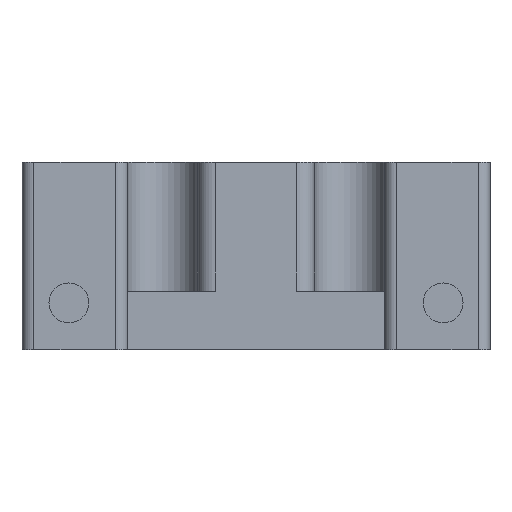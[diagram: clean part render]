
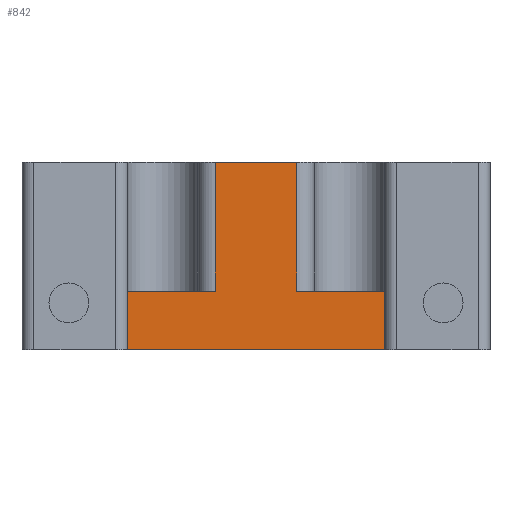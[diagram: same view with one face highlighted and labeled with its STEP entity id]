
A CAD part, front view. The second image highlights one B-rep face of the part: STEP entity #842.
In plain terms, the highlighted planar face has unit normal (0, -1, 0).
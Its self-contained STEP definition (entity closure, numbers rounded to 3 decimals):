
#32 = PLANE('',#33);
#33 = AXIS2_PLACEMENT_3D('',#34,#35,#36);
#34 = CARTESIAN_POINT('',(30.,-12.5,8.));
#35 = DIRECTION('',(0.,0.,1.));
#36 = DIRECTION('',(1.,0.,0.));
#57 = VERTEX_POINT('',#58);
#58 = CARTESIAN_POINT('',(13.5,-9.5,8.));
#77 = CYLINDRICAL_SURFACE('',#78,1.5);
#78 = AXIS2_PLACEMENT_3D('',#79,#80,#81);
#79 = CARTESIAN_POINT('',(13.5,-8.,8.));
#80 = DIRECTION('',(-0.,-0.,-1.));
#81 = DIRECTION('',(1.,0.,0.));
#89 = EDGE_CURVE('',#90,#57,#92,.T.);
#90 = VERTEX_POINT('',#91);
#91 = CARTESIAN_POINT('',(6.5,-9.5,8.));
#92 = SURFACE_CURVE('',#93,(#97,#104),.PCURVE_S1.);
#93 = LINE('',#94,#95);
#94 = CARTESIAN_POINT('',(5.,-9.5,8.));
#95 = VECTOR('',#96,1.);
#96 = DIRECTION('',(1.,0.,0.));
#97 = PCURVE('',#32,#98);
#98 = DEFINITIONAL_REPRESENTATION('',(#99),#103);
#99 = LINE('',#100,#101);
#100 = CARTESIAN_POINT('',(-25.,3.));
#101 = VECTOR('',#102,1.);
#102 = DIRECTION('',(1.,-0.));
#103 = ( GEOMETRIC_REPRESENTATION_CONTEXT(2) 
PARAMETRIC_REPRESENTATION_CONTEXT() REPRESENTATION_CONTEXT('2D SPACE',''
  ) );
#104 = PCURVE('',#105,#110);
#105 = PLANE('',#106);
#106 = AXIS2_PLACEMENT_3D('',#107,#108,#109);
#107 = CARTESIAN_POINT('',(21.,-9.5,8.));
#108 = DIRECTION('',(-0.,-1.,-0.));
#109 = DIRECTION('',(1.,0.,0.));
#110 = DEFINITIONAL_REPRESENTATION('',(#111),#115);
#111 = LINE('',#112,#113);
#112 = CARTESIAN_POINT('',(-16.,0.));
#113 = VECTOR('',#114,1.);
#114 = DIRECTION('',(1.,-0.));
#115 = ( GEOMETRIC_REPRESENTATION_CONTEXT(2) 
PARAMETRIC_REPRESENTATION_CONTEXT() REPRESENTATION_CONTEXT('2D SPACE',''
  ) );
#138 = CYLINDRICAL_SURFACE('',#139,1.5);
#139 = AXIS2_PLACEMENT_3D('',#140,#141,#142);
#140 = CARTESIAN_POINT('',(6.5,-8.,8.));
#141 = DIRECTION('',(0.,0.,-1.));
#142 = DIRECTION('',(0.,-1.,0.));
#223 = PLANE('',#224);
#224 = AXIS2_PLACEMENT_3D('',#225,#226,#227);
#225 = CARTESIAN_POINT('',(-1.,-12.5,8.));
#226 = DIRECTION('',(1.,0.,0.));
#227 = DIRECTION('',(-0.,1.,0.));
#515 = PLANE('',#516);
#516 = AXIS2_PLACEMENT_3D('',#517,#518,#519);
#517 = CARTESIAN_POINT('',(21.,-12.5,8.));
#518 = DIRECTION('',(-1.,-0.,-0.));
#519 = DIRECTION('',(0.,-1.,0.));
#702 = PLANE('',#703);
#703 = AXIS2_PLACEMENT_3D('',#704,#705,#706);
#704 = CARTESIAN_POINT('',(18.,-5.5,-3.));
#705 = DIRECTION('',(0.,0.,1.));
#706 = DIRECTION('',(1.,0.,0.));
#739 = EDGE_CURVE('',#57,#740,#742,.T.);
#740 = VERTEX_POINT('',#741);
#741 = CARTESIAN_POINT('',(13.5,-9.5,-3.));
#742 = SURFACE_CURVE('',#743,(#747,#754),.PCURVE_S1.);
#743 = LINE('',#744,#745);
#744 = CARTESIAN_POINT('',(13.5,-9.5,8.));
#745 = VECTOR('',#746,1.);
#746 = DIRECTION('',(-0.,-0.,-1.));
#747 = PCURVE('',#77,#748);
#748 = DEFINITIONAL_REPRESENTATION('',(#749),#753);
#749 = LINE('',#750,#751);
#750 = CARTESIAN_POINT('',(1.571,0.));
#751 = VECTOR('',#752,1.);
#752 = DIRECTION('',(0.,1.));
#753 = ( GEOMETRIC_REPRESENTATION_CONTEXT(2) 
PARAMETRIC_REPRESENTATION_CONTEXT() REPRESENTATION_CONTEXT('2D SPACE',''
  ) );
#754 = PCURVE('',#105,#755);
#755 = DEFINITIONAL_REPRESENTATION('',(#756),#760);
#756 = LINE('',#757,#758);
#757 = CARTESIAN_POINT('',(-7.5,0.));
#758 = VECTOR('',#759,1.);
#759 = DIRECTION('',(-0.,-1.));
#760 = ( GEOMETRIC_REPRESENTATION_CONTEXT(2) 
PARAMETRIC_REPRESENTATION_CONTEXT() REPRESENTATION_CONTEXT('2D SPACE',''
  ) );
#842 = ADVANCED_FACE('',(#843),#105,.T.);
#843 = FACE_BOUND('',#844,.F.);
#844 = EDGE_LOOP('',(#845,#846,#847,#870,#893,#921,#944,#972));
#845 = ORIENTED_EDGE('',*,*,#89,.T.);
#846 = ORIENTED_EDGE('',*,*,#739,.T.);
#847 = ORIENTED_EDGE('',*,*,#848,.F.);
#848 = EDGE_CURVE('',#849,#740,#851,.T.);
#849 = VERTEX_POINT('',#850);
#850 = CARTESIAN_POINT('',(21.,-9.5,-3.));
#851 = SURFACE_CURVE('',#852,(#856,#863),.PCURVE_S1.);
#852 = LINE('',#853,#854);
#853 = CARTESIAN_POINT('',(21.,-9.5,-3.));
#854 = VECTOR('',#855,1.);
#855 = DIRECTION('',(-1.,0.,0.));
#856 = PCURVE('',#105,#857);
#857 = DEFINITIONAL_REPRESENTATION('',(#858),#862);
#858 = LINE('',#859,#860);
#859 = CARTESIAN_POINT('',(-0.,-11.));
#860 = VECTOR('',#861,1.);
#861 = DIRECTION('',(-1.,0.));
#862 = ( GEOMETRIC_REPRESENTATION_CONTEXT(2) 
PARAMETRIC_REPRESENTATION_CONTEXT() REPRESENTATION_CONTEXT('2D SPACE',''
  ) );
#863 = PCURVE('',#702,#864);
#864 = DEFINITIONAL_REPRESENTATION('',(#865),#869);
#865 = LINE('',#866,#867);
#866 = CARTESIAN_POINT('',(3.,-4.));
#867 = VECTOR('',#868,1.);
#868 = DIRECTION('',(-1.,0.));
#869 = ( GEOMETRIC_REPRESENTATION_CONTEXT(2) 
PARAMETRIC_REPRESENTATION_CONTEXT() REPRESENTATION_CONTEXT('2D SPACE',''
  ) );
#870 = ORIENTED_EDGE('',*,*,#871,.T.);
#871 = EDGE_CURVE('',#849,#872,#874,.T.);
#872 = VERTEX_POINT('',#873);
#873 = CARTESIAN_POINT('',(21.,-9.5,-8.));
#874 = SURFACE_CURVE('',#875,(#879,#886),.PCURVE_S1.);
#875 = LINE('',#876,#877);
#876 = CARTESIAN_POINT('',(21.,-9.5,8.));
#877 = VECTOR('',#878,1.);
#878 = DIRECTION('',(0.,-0.,-1.));
#879 = PCURVE('',#105,#880);
#880 = DEFINITIONAL_REPRESENTATION('',(#881),#885);
#881 = LINE('',#882,#883);
#882 = CARTESIAN_POINT('',(0.,-0.));
#883 = VECTOR('',#884,1.);
#884 = DIRECTION('',(-0.,-1.));
#885 = ( GEOMETRIC_REPRESENTATION_CONTEXT(2) 
PARAMETRIC_REPRESENTATION_CONTEXT() REPRESENTATION_CONTEXT('2D SPACE',''
  ) );
#886 = PCURVE('',#515,#887);
#887 = DEFINITIONAL_REPRESENTATION('',(#888),#892);
#888 = LINE('',#889,#890);
#889 = CARTESIAN_POINT('',(-3.,0.));
#890 = VECTOR('',#891,1.);
#891 = DIRECTION('',(-0.,-1.));
#892 = ( GEOMETRIC_REPRESENTATION_CONTEXT(2) 
PARAMETRIC_REPRESENTATION_CONTEXT() REPRESENTATION_CONTEXT('2D SPACE',''
  ) );
#893 = ORIENTED_EDGE('',*,*,#894,.T.);
#894 = EDGE_CURVE('',#872,#895,#897,.T.);
#895 = VERTEX_POINT('',#896);
#896 = CARTESIAN_POINT('',(-1.,-9.5,-8.));
#897 = SURFACE_CURVE('',#898,(#902,#909),.PCURVE_S1.);
#898 = LINE('',#899,#900);
#899 = CARTESIAN_POINT('',(21.,-9.5,-8.));
#900 = VECTOR('',#901,1.);
#901 = DIRECTION('',(-1.,0.,0.));
#902 = PCURVE('',#105,#903);
#903 = DEFINITIONAL_REPRESENTATION('',(#904),#908);
#904 = LINE('',#905,#906);
#905 = CARTESIAN_POINT('',(-0.,-16.));
#906 = VECTOR('',#907,1.);
#907 = DIRECTION('',(-1.,0.));
#908 = ( GEOMETRIC_REPRESENTATION_CONTEXT(2) 
PARAMETRIC_REPRESENTATION_CONTEXT() REPRESENTATION_CONTEXT('2D SPACE',''
  ) );
#909 = PCURVE('',#910,#915);
#910 = PLANE('',#911);
#911 = AXIS2_PLACEMENT_3D('',#912,#913,#914);
#912 = CARTESIAN_POINT('',(30.,-12.5,-8.));
#913 = DIRECTION('',(0.,0.,1.));
#914 = DIRECTION('',(1.,0.,0.));
#915 = DEFINITIONAL_REPRESENTATION('',(#916),#920);
#916 = LINE('',#917,#918);
#917 = CARTESIAN_POINT('',(-9.,3.));
#918 = VECTOR('',#919,1.);
#919 = DIRECTION('',(-1.,0.));
#920 = ( GEOMETRIC_REPRESENTATION_CONTEXT(2) 
PARAMETRIC_REPRESENTATION_CONTEXT() REPRESENTATION_CONTEXT('2D SPACE',''
  ) );
#921 = ORIENTED_EDGE('',*,*,#922,.F.);
#922 = EDGE_CURVE('',#923,#895,#925,.T.);
#923 = VERTEX_POINT('',#924);
#924 = CARTESIAN_POINT('',(-1.,-9.5,-3.));
#925 = SURFACE_CURVE('',#926,(#930,#937),.PCURVE_S1.);
#926 = LINE('',#927,#928);
#927 = CARTESIAN_POINT('',(-1.,-9.5,8.));
#928 = VECTOR('',#929,1.);
#929 = DIRECTION('',(-0.,-0.,-1.));
#930 = PCURVE('',#105,#931);
#931 = DEFINITIONAL_REPRESENTATION('',(#932),#936);
#932 = LINE('',#933,#934);
#933 = CARTESIAN_POINT('',(-22.,0.));
#934 = VECTOR('',#935,1.);
#935 = DIRECTION('',(-0.,-1.));
#936 = ( GEOMETRIC_REPRESENTATION_CONTEXT(2) 
PARAMETRIC_REPRESENTATION_CONTEXT() REPRESENTATION_CONTEXT('2D SPACE',''
  ) );
#937 = PCURVE('',#223,#938);
#938 = DEFINITIONAL_REPRESENTATION('',(#939),#943);
#939 = LINE('',#940,#941);
#940 = CARTESIAN_POINT('',(3.,0.));
#941 = VECTOR('',#942,1.);
#942 = DIRECTION('',(0.,-1.));
#943 = ( GEOMETRIC_REPRESENTATION_CONTEXT(2) 
PARAMETRIC_REPRESENTATION_CONTEXT() REPRESENTATION_CONTEXT('2D SPACE',''
  ) );
#944 = ORIENTED_EDGE('',*,*,#945,.F.);
#945 = EDGE_CURVE('',#946,#923,#948,.T.);
#946 = VERTEX_POINT('',#947);
#947 = CARTESIAN_POINT('',(6.5,-9.5,-3.));
#948 = SURFACE_CURVE('',#949,(#953,#960),.PCURVE_S1.);
#949 = LINE('',#950,#951);
#950 = CARTESIAN_POINT('',(6.5,-9.5,-3.));
#951 = VECTOR('',#952,1.);
#952 = DIRECTION('',(-1.,0.,0.));
#953 = PCURVE('',#105,#954);
#954 = DEFINITIONAL_REPRESENTATION('',(#955),#959);
#955 = LINE('',#956,#957);
#956 = CARTESIAN_POINT('',(-14.5,-11.));
#957 = VECTOR('',#958,1.);
#958 = DIRECTION('',(-1.,0.));
#959 = ( GEOMETRIC_REPRESENTATION_CONTEXT(2) 
PARAMETRIC_REPRESENTATION_CONTEXT() REPRESENTATION_CONTEXT('2D SPACE',''
  ) );
#960 = PCURVE('',#961,#966);
#961 = PLANE('',#962);
#962 = AXIS2_PLACEMENT_3D('',#963,#964,#965);
#963 = CARTESIAN_POINT('',(2.,-5.5,-3.));
#964 = DIRECTION('',(0.,0.,1.));
#965 = DIRECTION('',(1.,0.,0.));
#966 = DEFINITIONAL_REPRESENTATION('',(#967),#971);
#967 = LINE('',#968,#969);
#968 = CARTESIAN_POINT('',(4.5,-4.));
#969 = VECTOR('',#970,1.);
#970 = DIRECTION('',(-1.,0.));
#971 = ( GEOMETRIC_REPRESENTATION_CONTEXT(2) 
PARAMETRIC_REPRESENTATION_CONTEXT() REPRESENTATION_CONTEXT('2D SPACE',''
  ) );
#972 = ORIENTED_EDGE('',*,*,#973,.F.);
#973 = EDGE_CURVE('',#90,#946,#974,.T.);
#974 = SURFACE_CURVE('',#975,(#979,#986),.PCURVE_S1.);
#975 = LINE('',#976,#977);
#976 = CARTESIAN_POINT('',(6.5,-9.5,8.));
#977 = VECTOR('',#978,1.);
#978 = DIRECTION('',(0.,0.,-1.));
#979 = PCURVE('',#105,#980);
#980 = DEFINITIONAL_REPRESENTATION('',(#981),#985);
#981 = LINE('',#982,#983);
#982 = CARTESIAN_POINT('',(-14.5,0.));
#983 = VECTOR('',#984,1.);
#984 = DIRECTION('',(-0.,-1.));
#985 = ( GEOMETRIC_REPRESENTATION_CONTEXT(2) 
PARAMETRIC_REPRESENTATION_CONTEXT() REPRESENTATION_CONTEXT('2D SPACE',''
  ) );
#986 = PCURVE('',#138,#987);
#987 = DEFINITIONAL_REPRESENTATION('',(#988),#992);
#988 = LINE('',#989,#990);
#989 = CARTESIAN_POINT('',(0.,0.));
#990 = VECTOR('',#991,1.);
#991 = DIRECTION('',(0.,1.));
#992 = ( GEOMETRIC_REPRESENTATION_CONTEXT(2) 
PARAMETRIC_REPRESENTATION_CONTEXT() REPRESENTATION_CONTEXT('2D SPACE',''
  ) );
